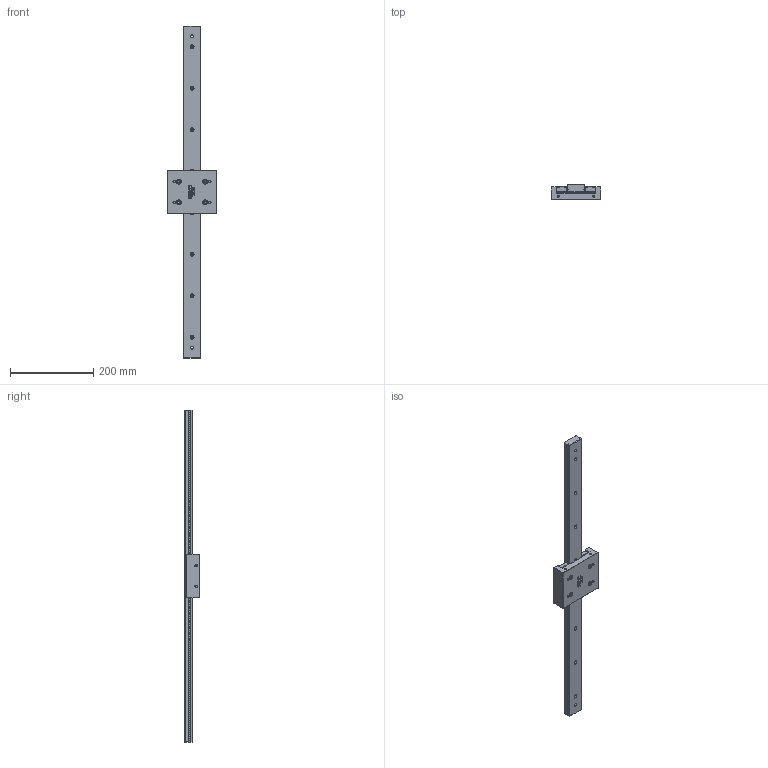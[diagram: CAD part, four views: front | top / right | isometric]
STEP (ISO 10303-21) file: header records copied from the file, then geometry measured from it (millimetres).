
FILE_DESCRIPTION(/* description */ ('TAVOLA TRKD06 L= 800 mm'),/* implementation_level */ '2;1');
FILE_NAME(/* name */ 'TRKD060800-00.stp',/* time_stamp */ '2024-01-25T10:50:13+01:00',/* author */ ('Rosa Sistemi'),/* organization */ (''),/* preprocessor_version */ 'ST-DEVELOPER v20',/* originating_system */ 'Autodesk Inventor 2024',/* authorisation */ '');
FILE_SCHEMA (('AUTOMOTIVE_DESIGN { 1 0 10303 214 3 1 1 }'));
Length unit declared in the file: millimetre
Products named in the file (2): TRKD060800-00; TRKD060800-00_1
Assembly tree (1 placements, depth 2):
  TRKD060800-00
    TRKD060800-00_1
Bounding box: 120 x 36 x 800 mm (x, y, z)
Volume: 905760.2 mm3; surface area: 172885 mm2
Topology: 13 solids, 13 shells, 689 faces, 1771 edges, 1139 vertices
Faces by surface type: plane 420, cylinder 95, cone 88, bspline 36, sphere 26, torus 24
Full cylindrical faces by diameter (mm): 2 x2, 2.795 x1, 4.134 x4, 4.917 x20, 6 x15, 7 x3, 7.687 x1, 9.5 x8, 9.9 x4, 10 x4, 11 x4
Entity records: 21895 total; most frequent: CARTESIAN_POINT 4604, ORIENTED_EDGE 3414, DIRECTION 3326, EDGE_CURVE 1707, AXIS2_PLACEMENT_3D 1145, VERTEX_POINT 1139, LINE 1036, VECTOR 1036
